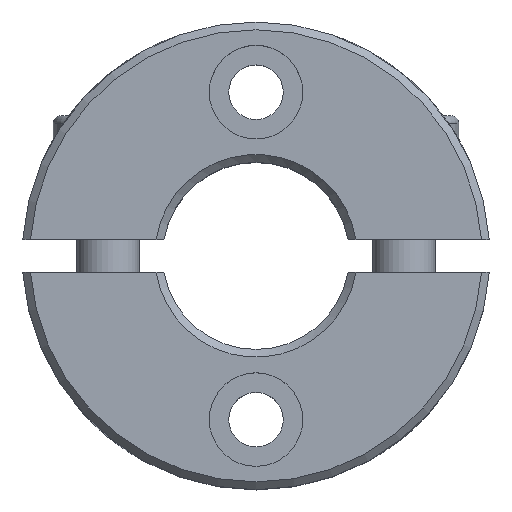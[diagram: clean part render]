
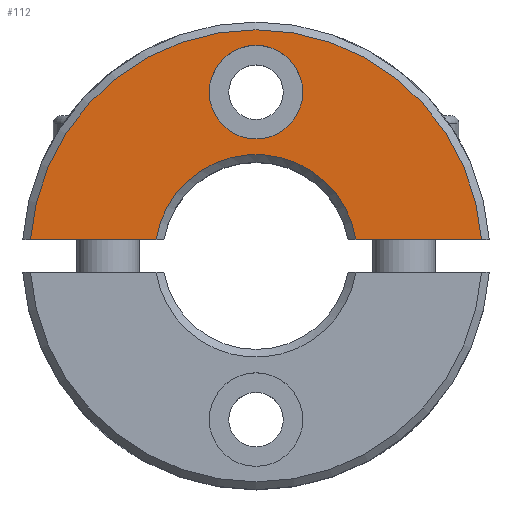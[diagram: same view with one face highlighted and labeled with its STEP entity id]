
A CAD part, top view. The second image highlights one B-rep face of the part: STEP entity #112.
In plain terms, the highlighted planar face has unit normal (0, 0, 1).
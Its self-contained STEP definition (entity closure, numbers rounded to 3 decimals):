
#112 = ADVANCED_FACE( '', ( #235, #236 ), #237, .T. );
#235 = FACE_OUTER_BOUND( '', #397, .T. );
#236 = FACE_BOUND( '', #398, .T. );
#237 = PLANE( '', #399 );
#397 = EDGE_LOOP( '', ( #703, #704, #705, #706 ) );
#398 = EDGE_LOOP( '', ( #707 ) );
#399 = AXIS2_PLACEMENT_3D( '', #708, #709, #710 );
#703 = ORIENTED_EDGE( '', *, *, #890, .F. );
#704 = ORIENTED_EDGE( '', *, *, #908, .T. );
#705 = ORIENTED_EDGE( '', *, *, #902, .F. );
#706 = ORIENTED_EDGE( '', *, *, #894, .F. );
#707 = ORIENTED_EDGE( '', *, *, #941, .T. );
#708 = CARTESIAN_POINT( '', ( 0., 6.5, 5.5 ) );
#709 = DIRECTION( '', ( 0., 0., 1. ) );
#710 = DIRECTION( '', ( 1., 0., 0. ) );
#890 = EDGE_CURVE( '', #1015, #1017, #1018, .T. );
#894 = EDGE_CURVE( '', #1017, #1024, #1025, .T. );
#902 = EDGE_CURVE( '', #1024, #1037, #1038, .T. );
#908 = EDGE_CURVE( '', #1015, #1037, #1047, .T. );
#941 = EDGE_CURVE( '', #1106, #1106, #1107, .F. );
#1015 = VERTEX_POINT( '', #1332 );
#1017 = VERTEX_POINT( '', #1337 );
#1018 = LINE( '', #1338, #1339 );
#1024 = VERTEX_POINT( '', #1352 );
#1025 = CIRCLE( '', #1353, 6.5 );
#1037 = VERTEX_POINT( '', #1372 );
#1038 = LINE( '', #1373, #1374 );
#1047 = CIRCLE( '', #1391, 14.5 );
#1106 = VERTEX_POINT( '', #1584 );
#1107 = CIRCLE( '', #1585, 3. );
#1332 = CARTESIAN_POINT( '', ( 14.462, 1.05, 5.5 ) );
#1337 = CARTESIAN_POINT( '', ( 6.415, 1.05, 5.5 ) );
#1338 = CARTESIAN_POINT( '', ( 17., 1.05, 5.5 ) );
#1339 = VECTOR( '', #1742, 1000. );
#1352 = CARTESIAN_POINT( '', ( -6.415, 1.05, 5.5 ) );
#1353 = AXIS2_PLACEMENT_3D( '', #1744, #1745, #1746 );
#1372 = CARTESIAN_POINT( '', ( -14.462, 1.05, 5.5 ) );
#1373 = CARTESIAN_POINT( '', ( 0., 1.05, 5.5 ) );
#1374 = VECTOR( '', #1760, 1000. );
#1391 = AXIS2_PLACEMENT_3D( '', #1766, #1767, #1768 );
#1584 = CARTESIAN_POINT( '', ( 3., 10.5, 5.5 ) );
#1585 = AXIS2_PLACEMENT_3D( '', #1823, #1824, #1825 );
#1742 = DIRECTION( '', ( -1., 0., 0. ) );
#1744 = CARTESIAN_POINT( '', ( 0., 0., 5.5 ) );
#1745 = DIRECTION( '', ( 0., 0., 1. ) );
#1746 = DIRECTION( '', ( 1., 0., 0. ) );
#1760 = DIRECTION( '', ( -1., 0., 0. ) );
#1766 = CARTESIAN_POINT( '', ( 0., 0., 5.5 ) );
#1767 = DIRECTION( '', ( 0., 0., 1. ) );
#1768 = DIRECTION( '', ( 1., 0., 0. ) );
#1823 = CARTESIAN_POINT( '', ( 0., 10.5, 5.5 ) );
#1824 = DIRECTION( '', ( 0., 0., 1. ) );
#1825 = DIRECTION( '', ( 1., 0., 0. ) );
